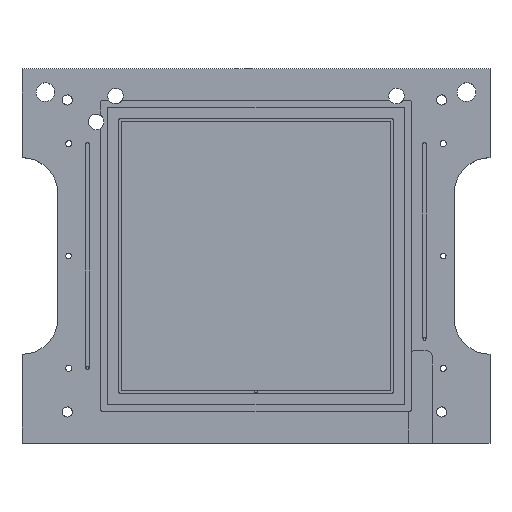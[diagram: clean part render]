
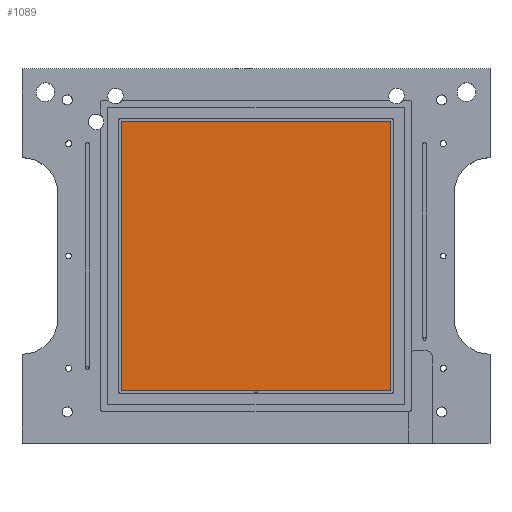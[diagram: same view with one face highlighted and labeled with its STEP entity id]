
A CAD part, top view. The second image highlights one B-rep face of the part: STEP entity #1089.
In plain terms, the highlighted planar face has unit normal (0, 0, 1).
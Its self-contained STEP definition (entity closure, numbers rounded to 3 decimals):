
#971=CARTESIAN_POINT('Vertex',(43.,-43.,-0.75)) ;
#974=CARTESIAN_POINT('Line Origine',(0.,-43.,-0.75)) ;
#978=CARTESIAN_POINT('Vertex',(-43.,-43.,-0.75)) ;
#1006=CARTESIAN_POINT('Line Origine',(-43.,0.,-0.75)) ;
#1010=CARTESIAN_POINT('Vertex',(-43.,43.,-0.75)) ;
#1037=CARTESIAN_POINT('Line Origine',(0.,43.,-0.75)) ;
#1041=CARTESIAN_POINT('Vertex',(43.,43.,-0.75)) ;
#1066=CARTESIAN_POINT('Line Origine',(43.,0.,-0.75)) ;
#1078=CARTESIAN_POINT('Axis2P3D Location',(0.,0.,-0.75)) ;
#975=DIRECTION('Vector Direction',(1.,0.,0.)) ;
#1007=DIRECTION('Vector Direction',(0.,-1.,0.)) ;
#1038=DIRECTION('Vector Direction',(-1.,0.,0.)) ;
#1067=DIRECTION('Vector Direction',(0.,1.,0.)) ;
#1079=DIRECTION('Axis2P3D Direction',(0.,0.,-1.)) ;
#1080=DIRECTION('Axis2P3D XDirection',(1.,0.,0.)) ;
#1081=AXIS2_PLACEMENT_3D('Plane Axis2P3D',#1078,#1079,#1080) ;
#1084=ORIENTED_EDGE('',*,*,#1070,.F.) ;
#1085=ORIENTED_EDGE('',*,*,#1043,.F.) ;
#1086=ORIENTED_EDGE('',*,*,#1012,.F.) ;
#1087=ORIENTED_EDGE('',*,*,#980,.F.) ;
#976=VECTOR('Line Direction',#975,1.) ;
#1008=VECTOR('Line Direction',#1007,1.) ;
#1039=VECTOR('Line Direction',#1038,1.) ;
#1068=VECTOR('Line Direction',#1067,1.) ;
#1089=ADVANCED_FACE('Corps principal',(#1088),#1082,.F.) ;
#980=EDGE_CURVE('',#972,#979,#977,.F.) ;
#1012=EDGE_CURVE('',#979,#1011,#1009,.F.) ;
#1043=EDGE_CURVE('',#1011,#1042,#1040,.F.) ;
#1070=EDGE_CURVE('',#1042,#972,#1069,.F.) ;
#1083=EDGE_LOOP('',(#1084,#1085,#1086,#1087)) ;
#1088=FACE_OUTER_BOUND('',#1083,.T.) ;
#977=LINE('Line',#974,#976) ;
#1009=LINE('Line',#1006,#1008) ;
#1040=LINE('Line',#1037,#1039) ;
#1069=LINE('Line',#1066,#1068) ;
#1082=PLANE('Plane',#1081) ;
#972=VERTEX_POINT('',#971) ;
#979=VERTEX_POINT('',#978) ;
#1011=VERTEX_POINT('',#1010) ;
#1042=VERTEX_POINT('',#1041) ;
